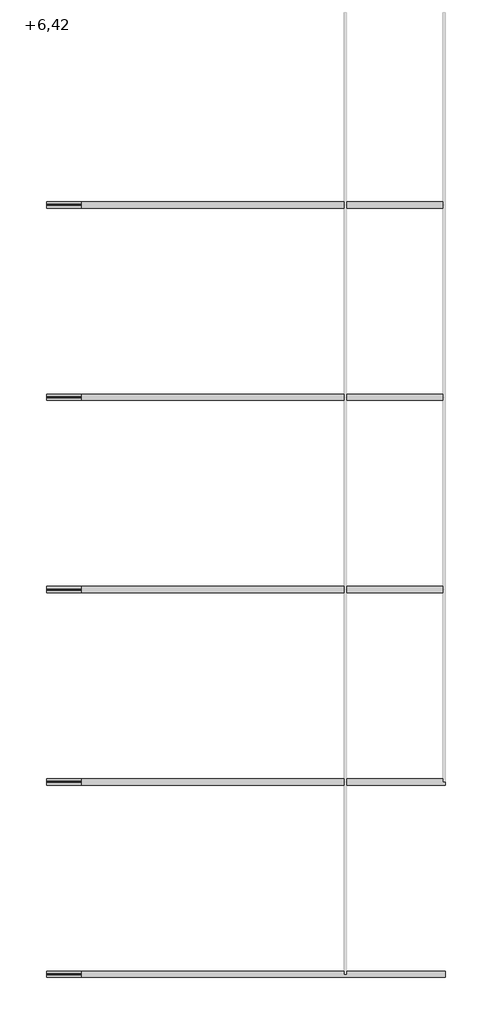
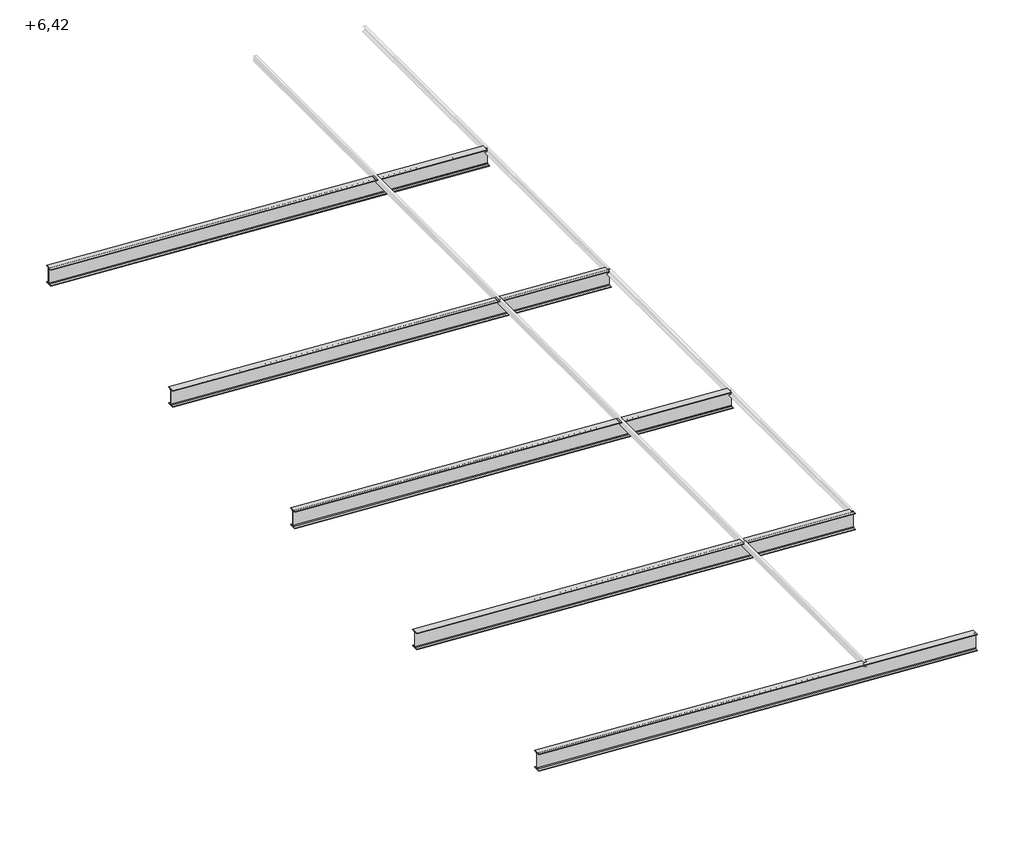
# One storey, part 1 of 2: 5 beams.
"""IFC4 building model written with IfcOpenShell, lengths in millimetres."""

from ifc_helpers import new_model, si_unit, frame, origin, place, context, project, spatial, polyline, ellipse_curve, element, save
from ifc_brep_helpers import plane_surface, revolved_surface, advanced_brep

model = new_model("IFC4")

# Units and contexts
model_context = context("Model", 3, world=origin())
ifc_project = project(units=[si_unit("LENGTHUNIT", "METRE", prefix="MILLI")], contexts=[model_context])

# Site, building, storey
site = spatial("IfcSite", under=ifc_project)
building = spatial("IfcBuilding", under=site)
storey = spatial("IfcBuildingStorey", under=building, Name="+6,42", Elevation=6424.0)

# Beams
placement = place(None, origin())
element("IfcBeam", 1, ObjectType="RPLN IPE - Dwuteowniki równoległościenne : I500PE", at=placement, inside=storey, context=model_context, shape_type="AdvancedBrep", body=[
    advanced_brep(
    [(-8321.7766659, -36886.3816585, 7205.3745626), (-8321.7766659, -36812.4816585, 7205.3745626), (-8321.7740086, -36812.4816585, 7189.3451466), (-8321.7740086, -37012.4816585, 7189.3451466), (-8321.7766659, -37012.4816585, 7205.3745626), (-8321.7766659, -36938.5816585, 7205.3745626), (-8321.7801535, -36917.5816585, 7226.4131711), (-8321.8509032, -36917.5816585, 7653.1963726), (-8321.8543908, -36938.5816585, 7674.2349812), (-8321.8543908, -37012.4816585, 7674.2349812), (-8321.8570481, -37012.4816585, 7690.2643972), (-8321.8570481, -36812.4816585, 7690.2643972), (-8321.8543908, -36812.4816585, 7674.2349812), (-8321.8543908, -36886.3816585, 7674.2349812), (-8321.8509032, -36907.3816585, 7653.1963726), (-8321.7801535, -36907.3816585, 7226.4131711), (4132.9926321, -36812.4816585, 6451.8610201), (4132.9926321, -36886.3816585, 6451.8610201), (4132.9926321, -36907.3816585, 6472.8994176), (4132.9926321, -36907.3816585, 6899.6783387), (4132.9926321, -36886.3816585, 6920.7167363), (4132.9926321, -36812.4816585, 6920.7167363), (4132.9926321, -36812.4816585, 6936.7459915), (4132.9926321, -37012.4816585, 6936.7459915), (4132.9926321, -37012.4816585, 6920.7167363), (4132.9926321, -36938.5816585, 6920.7167363), (4132.9926321, -36917.5816585, 6899.6783387), (4132.9926321, -36917.5816585, 6472.8994176), (4132.9926321, -36938.5816585, 6451.8610201), (4132.9926321, -37012.4816585, 6451.8610201), (4132.9926321, -37012.4816585, 6435.8317648), (4132.9926321, -36812.4816585, 6435.8317648)],
    [
        (0, 1),
        (1, 2),
        (2, 3),
        (3, 4),
        (4, 5),
        (5, 6, ellipse_curve(frame((-8321.7801535, -36938.5816585, 7226.4131711), z_axis=(0.9999999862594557, 0.0, 0.0001657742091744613), x_axis=(-0.00016577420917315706, 0.0, 0.9999999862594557)), 21.0386088, 21.0)),
        (6, 7),
        (7, 8, ellipse_curve(frame((-8321.8509032, -36938.5816585, 7653.1963726), z_axis=(0.9999999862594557, 0.0, 0.0001657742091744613), x_axis=(-0.00016577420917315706, 0.0, 0.9999999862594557)), 21.0386088, 21.0)),
        (8, 9),
        (9, 10),
        (10, 11),
        (11, 12),
        (12, 13),
        (13, 14, ellipse_curve(frame((-8321.8509032, -36886.3816585, 7653.1963726), z_axis=(0.9999999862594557, 0.0, 0.0001657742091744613), x_axis=(-0.00016577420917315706, 0.0, 0.9999999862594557)), 21.0386088, 21.0)),
        (14, 15),
        (15, 0, ellipse_curve(frame((-8321.7801535, -36886.3816585, 7226.4131711), z_axis=(0.9999999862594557, 0.0, 0.0001657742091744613), x_axis=(-0.00016577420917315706, 0.0, 0.9999999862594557)), 21.0386088, 21.0)),
        (16, 17),
        (17, 18, ellipse_curve(frame((4132.9926321, -36886.3816585, 6472.8994176), z_axis=(-1.0, 0.0, 0.0), x_axis=(0.0, 0.0, 0.9999999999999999)), 21.0383975, 21.0)),
        (18, 19),
        (19, 20, ellipse_curve(frame((4132.9926321, -36886.3816585, 6899.6783387), z_axis=(-1.0, 0.0, 0.0), x_axis=(0.0, 0.0, 0.9999999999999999)), 21.0383975, 21.0)),
        (20, 21),
        (21, 22),
        (22, 23),
        (23, 24),
        (24, 25),
        (25, 26, ellipse_curve(frame((4132.9926321, -36938.5816585, 6899.6783387), z_axis=(-1.0, 0.0, 0.0), x_axis=(0.0, 0.0, 0.9999999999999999)), 21.0383975, 21.0)),
        (26, 27),
        (27, 28, ellipse_curve(frame((4132.9926321, -36938.5816585, 6472.8994176), z_axis=(-1.0, 0.0, 0.0), x_axis=(0.0, 0.0, 0.9999999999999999)), 21.0383975, 21.0)),
        (28, 29),
        (29, 30),
        (30, 31),
        (31, 16),
        (16, 1),
        (0, 17),
        (31, 2),
        (30, 3),
        (29, 4),
        (28, 5),
        (27, 6),
        (26, 7),
        (25, 8),
        (24, 9),
        (23, 10),
        (22, 11),
        (21, 12),
        (20, 13),
        (19, 14),
        (18, 15),
    ],
    [
        plane_surface(frame((-8321.6398386, -36912.4816585, 6379.9913475), z_axis=(-0.9999999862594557, 0.0, -0.0001657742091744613), x_axis=(0.0001657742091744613, 0.0, -0.9999999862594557))),
        plane_surface(frame((4132.9926321, -36912.4816585, 6983.0025864), z_axis=(1.0, 0.0, 0.0), x_axis=(0.0, 0.0, 1.0))),
        plane_surface(frame((4227.795571, -36812.4816585, 6446.1254423), z_axis=(0.06038958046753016, 0.0, 0.9981748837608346), x_axis=(-0.9981748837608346, 0.0, 0.06038958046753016))),
        plane_surface(frame((4226.8293377, -36812.4816585, 6430.1546441), z_axis=(0.0, 1.0, 0.0), x_axis=(-0.9981748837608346, 0.0, 0.06038958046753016))),
        plane_surface(frame((4226.8293377, -37012.4816585, 6430.1546441), z_axis=(-0.06038958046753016, 0.0, -0.9981748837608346), x_axis=(-0.9981748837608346, 0.0, 0.06038958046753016))),
        plane_surface(frame((4227.795571, -37012.4816585, 6446.1254423), z_axis=(0.0, -1.0, 0.0), x_axis=(-0.9981748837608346, 0.0, 0.06038958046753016))),
        plane_surface(frame((4227.795571, -36938.5816585, 6446.1254423), z_axis=(0.06038958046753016, 0.0, 0.9981748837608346), x_axis=(-0.9981748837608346, 0.0, 0.06038958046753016))),
        revolved_surface(polyline([(-8323.051822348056, -36959.5816585, 7226.490107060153), (4134.260813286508, -36959.5816585, 6472.822692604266)]), (4229.0637522, -36938.5816585, 6467.0871148), (-0.9981748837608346, 0.0, 0.06038958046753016)),
        plane_surface(frame((4254.7897134, -36917.5816585, 6892.3096153), z_axis=(0.0, -1.0, 0.0), x_axis=(-0.9981748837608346, 0.0, 0.06038958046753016))),
        revolved_surface(polyline([(-8323.122572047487, -36959.5816585, 7653.273308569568), (4134.260813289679, -36959.5816585, 6899.601613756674)]), (4254.7897134, -36938.5816585, 6892.3096153), (-0.9981748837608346, 0.0, 0.06038958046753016)),
        plane_surface(frame((4256.0578946, -37012.4816585, 6913.2712879), z_axis=(-0.06038958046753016, 0.0, -0.9981748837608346), x_axis=(-0.9981748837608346, 0.0, 0.06038958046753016))),
        plane_surface(frame((4257.0241279, -37012.4816585, 6929.242086), z_axis=(0.0, -1.0, 0.0), x_axis=(-0.9981748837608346, 0.0, 0.06038958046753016))),
        plane_surface(frame((4257.0241279, -36812.4816585, 6929.242086), z_axis=(0.06038958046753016, 0.0, 0.9981748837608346), x_axis=(-0.9981748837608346, 0.0, 0.06038958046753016))),
        plane_surface(frame((4256.0578946, -36812.4816585, 6913.2712879), z_axis=(0.0, 1.0, 0.0), x_axis=(-0.9981748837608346, 0.0, 0.06038958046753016))),
        plane_surface(frame((4256.0578946, -36886.3816585, 6913.2712879), z_axis=(-0.06038958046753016, 0.0, -0.9981748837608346), x_axis=(-0.9981748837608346, 0.0, 0.06038958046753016))),
        revolved_surface(polyline([(-8323.122572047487, -36907.3816585, 7653.273308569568), (4134.260813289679, -36907.3816585, 6899.601613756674)]), (4254.7897134, -36886.3816585, 6892.3096153), (-0.9981748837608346, 0.0, 0.06038958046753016)),
        plane_surface(frame((4229.0637522, -36907.3816585, 6467.0871148), z_axis=(0.0, 1.0, 0.0), x_axis=(-0.9981748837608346, 0.0, 0.06038958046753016))),
        revolved_surface(polyline([(-8323.051822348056, -36907.3816585, 7226.490107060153), (4134.260813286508, -36907.3816585, 6472.822692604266)]), (4229.0637522, -36886.3816585, 6467.0871148), (-0.9981748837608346, 0.0, 0.06038958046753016)),
    ],
    [
        (0, [[1, 2, 3, 4, 5, 6, 7, 8, 9, 10, 11, 12, 13, 14, 15, 16]]),
        (1, [[17, 18, 19, 20, 21, 22, 23, 24, 25, 26, 27, 28, 29, 30, 31, 32]]),
        (2, [[33, -1, 34, -17]]),
        (3, [[35, -2, -33, -32]]),
        (4, [[36, -3, -35, -31]]),
        (5, [[37, -4, -36, -30]]),
        (6, [[38, -5, -37, -29]]),
        (7, [[39, -6, -38, -28]]),
        (8, [[40, -7, -39, -27]]),
        (9, [[41, -8, -40, -26]]),
        (10, [[42, -9, -41, -25]]),
        (11, [[43, -10, -42, -24]]),
        (12, [[44, -11, -43, -23]]),
        (13, [[45, -12, -44, -22]]),
        (14, [[46, -13, -45, -21]]),
        (15, [[47, -14, -46, -20]]),
        (16, [[48, -15, -47, -19]]),
        (17, [[-34, -16, -48, -18]]),
    ],
),
])
element("IfcBeam", 2, ObjectType="RPLN IPE - Dwuteowniki równoległościenne : I500PE", at=placement, inside=storey, context=model_context, shape_type="AdvancedBrep", body=[
    advanced_brep(
    [(-8321.7766659, -30886.3816585, 7205.3745626), (-8321.7766659, -30812.4816585, 7205.3745626), (-8321.7740086, -30812.4816585, 7189.3451466), (-8321.7740086, -31012.4816585, 7189.3451466), (-8321.7766659, -31012.4816585, 7205.3745626), (-8321.7766659, -30938.5816585, 7205.3745626), (-8321.7801535, -30917.5816585, 7226.4131711), (-8321.8509032, -30917.5816585, 7653.1963726), (-8321.8543908, -30938.5816585, 7674.2349812), (-8321.8543908, -31012.4816585, 7674.2349812), (-8321.8570481, -31012.4816585, 7690.2643972), (-8321.8570481, -30812.4816585, 7690.2643972), (-8321.8543908, -30812.4816585, 7674.2349812), (-8321.8543908, -30886.3816585, 7674.2349812), (-8321.8509032, -30907.3816585, 7653.1963726), (-8321.7801535, -30907.3816585, 7226.4131711), (4132.9926321, -30812.4816585, 6451.8610201), (4132.9926321, -30886.3816585, 6451.8610201), (4132.9926321, -30907.3816585, 6472.8994176), (4132.9926321, -30907.3816585, 6899.6783387), (4132.9926321, -30886.3816585, 6920.7167363), (4132.9926321, -30812.4816585, 6920.7167363), (4132.9926321, -30812.4816585, 6936.7459915), (4132.9926321, -31012.4816585, 6936.7459915), (4132.9926321, -31012.4816585, 6920.7167363), (4132.9926321, -30938.5816585, 6920.7167363), (4132.9926321, -30917.5816585, 6899.6783387), (4132.9926321, -30917.5816585, 6472.8994176), (4132.9926321, -30938.5816585, 6451.8610201), (4132.9926321, -31012.4816585, 6451.8610201), (4132.9926321, -31012.4816585, 6435.8317648), (4132.9926321, -30812.4816585, 6435.8317648)],
    [
        (0, 1),
        (1, 2),
        (2, 3),
        (3, 4),
        (4, 5),
        (5, 6, ellipse_curve(frame((-8321.7801535, -30938.5816585, 7226.4131711), z_axis=(0.9999999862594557, 0.0, 0.0001657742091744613), x_axis=(-0.00016577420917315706, 0.0, 0.9999999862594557)), 21.0386088, 21.0)),
        (6, 7),
        (7, 8, ellipse_curve(frame((-8321.8509032, -30938.5816585, 7653.1963726), z_axis=(0.9999999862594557, 0.0, 0.0001657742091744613), x_axis=(-0.00016577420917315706, 0.0, 0.9999999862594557)), 21.0386088, 21.0)),
        (8, 9),
        (9, 10),
        (10, 11),
        (11, 12),
        (12, 13),
        (13, 14, ellipse_curve(frame((-8321.8509032, -30886.3816585, 7653.1963726), z_axis=(0.9999999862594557, 0.0, 0.0001657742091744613), x_axis=(-0.00016577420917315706, 0.0, 0.9999999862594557)), 21.0386088, 21.0)),
        (14, 15),
        (15, 0, ellipse_curve(frame((-8321.7801535, -30886.3816585, 7226.4131711), z_axis=(0.9999999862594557, 0.0, 0.0001657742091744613), x_axis=(-0.00016577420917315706, 0.0, 0.9999999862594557)), 21.0386088, 21.0)),
        (16, 17),
        (17, 18, ellipse_curve(frame((4132.9926321, -30886.3816585, 6472.8994176), z_axis=(-1.0, 0.0, 0.0), x_axis=(0.0, 0.0, 0.9999999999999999)), 21.0383975, 21.0)),
        (18, 19),
        (19, 20, ellipse_curve(frame((4132.9926321, -30886.3816585, 6899.6783387), z_axis=(-1.0, 0.0, 0.0), x_axis=(0.0, 0.0, 0.9999999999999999)), 21.0383975, 21.0)),
        (20, 21),
        (21, 22),
        (22, 23),
        (23, 24),
        (24, 25),
        (25, 26, ellipse_curve(frame((4132.9926321, -30938.5816585, 6899.6783387), z_axis=(-1.0, 0.0, 0.0), x_axis=(0.0, 0.0, 0.9999999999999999)), 21.0383975, 21.0)),
        (26, 27),
        (27, 28, ellipse_curve(frame((4132.9926321, -30938.5816585, 6472.8994176), z_axis=(-1.0, 0.0, 0.0), x_axis=(0.0, 0.0, 0.9999999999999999)), 21.0383975, 21.0)),
        (28, 29),
        (29, 30),
        (30, 31),
        (31, 16),
        (16, 1),
        (0, 17),
        (31, 2),
        (30, 3),
        (29, 4),
        (28, 5),
        (27, 6),
        (26, 7),
        (25, 8),
        (24, 9),
        (23, 10),
        (22, 11),
        (21, 12),
        (20, 13),
        (19, 14),
        (18, 15),
    ],
    [
        plane_surface(frame((-8321.6398386, -36912.4816585, 6379.9913475), z_axis=(-0.9999999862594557, 0.0, -0.0001657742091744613), x_axis=(0.0001657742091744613, 0.0, -0.9999999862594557))),
        plane_surface(frame((4132.9926321, -36912.4816585, 6983.0025864), z_axis=(1.0, 0.0, 0.0), x_axis=(0.0, 0.0, 1.0))),
        plane_surface(frame((4227.795571, -30812.4816585, 6446.1254423), z_axis=(0.06038958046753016, 0.0, 0.9981748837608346), x_axis=(-0.9981748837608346, 0.0, 0.06038958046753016))),
        plane_surface(frame((4226.8293377, -30812.4816585, 6430.1546441), z_axis=(0.0, 1.0, 0.0), x_axis=(-0.9981748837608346, 0.0, 0.06038958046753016))),
        plane_surface(frame((4226.8293377, -31012.4816585, 6430.1546441), z_axis=(-0.06038958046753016, 0.0, -0.9981748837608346), x_axis=(-0.9981748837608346, 0.0, 0.06038958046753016))),
        plane_surface(frame((4227.795571, -31012.4816585, 6446.1254423), z_axis=(0.0, -1.0, 0.0), x_axis=(-0.9981748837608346, 0.0, 0.06038958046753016))),
        plane_surface(frame((4227.795571, -30938.5816585, 6446.1254423), z_axis=(0.06038958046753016, 0.0, 0.9981748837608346), x_axis=(-0.9981748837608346, 0.0, 0.06038958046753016))),
        revolved_surface(polyline([(-8323.051822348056, -30959.5816585, 7226.490107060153), (4134.260813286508, -30959.5816585, 6472.822692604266)]), (4229.0637522, -30938.5816585, 6467.0871148), (-0.9981748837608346, 0.0, 0.06038958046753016)),
        plane_surface(frame((4254.7897134, -30917.5816585, 6892.3096153), z_axis=(0.0, -1.0, 0.0), x_axis=(-0.9981748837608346, 0.0, 0.06038958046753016))),
        revolved_surface(polyline([(-8323.122572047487, -30959.5816585, 7653.273308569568), (4134.260813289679, -30959.5816585, 6899.601613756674)]), (4254.7897134, -30938.5816585, 6892.3096153), (-0.9981748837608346, 0.0, 0.06038958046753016)),
        plane_surface(frame((4256.0578946, -31012.4816585, 6913.2712879), z_axis=(-0.06038958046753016, 0.0, -0.9981748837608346), x_axis=(-0.9981748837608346, 0.0, 0.06038958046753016))),
        plane_surface(frame((4257.0241279, -31012.4816585, 6929.242086), z_axis=(0.0, -1.0, 0.0), x_axis=(-0.9981748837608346, 0.0, 0.06038958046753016))),
        plane_surface(frame((4257.0241279, -30812.4816585, 6929.242086), z_axis=(0.06038958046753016, 0.0, 0.9981748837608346), x_axis=(-0.9981748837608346, 0.0, 0.06038958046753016))),
        plane_surface(frame((4256.0578946, -30812.4816585, 6913.2712879), z_axis=(0.0, 1.0, 0.0), x_axis=(-0.9981748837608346, 0.0, 0.06038958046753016))),
        plane_surface(frame((4256.0578946, -30886.3816585, 6913.2712879), z_axis=(-0.06038958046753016, 0.0, -0.9981748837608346), x_axis=(-0.9981748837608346, 0.0, 0.06038958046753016))),
        revolved_surface(polyline([(-8323.122572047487, -30907.3816585, 7653.273308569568), (4134.260813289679, -30907.3816585, 6899.601613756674)]), (4254.7897134, -30886.3816585, 6892.3096153), (-0.9981748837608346, 0.0, 0.06038958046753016)),
        plane_surface(frame((4229.0637522, -30907.3816585, 6467.0871148), z_axis=(0.0, 1.0, 0.0), x_axis=(-0.9981748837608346, 0.0, 0.06038958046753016))),
        revolved_surface(polyline([(-8323.051822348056, -30907.3816585, 7226.490107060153), (4134.260813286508, -30907.3816585, 6472.822692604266)]), (4229.0637522, -30886.3816585, 6467.0871148), (-0.9981748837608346, 0.0, 0.06038958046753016)),
    ],
    [
        (0, [[1, 2, 3, 4, 5, 6, 7, 8, 9, 10, 11, 12, 13, 14, 15, 16]]),
        (1, [[17, 18, 19, 20, 21, 22, 23, 24, 25, 26, 27, 28, 29, 30, 31, 32]]),
        (2, [[33, -1, 34, -17]]),
        (3, [[35, -2, -33, -32]]),
        (4, [[36, -3, -35, -31]]),
        (5, [[37, -4, -36, -30]]),
        (6, [[38, -5, -37, -29]]),
        (7, [[39, -6, -38, -28]]),
        (8, [[40, -7, -39, -27]]),
        (9, [[41, -8, -40, -26]]),
        (10, [[42, -9, -41, -25]]),
        (11, [[43, -10, -42, -24]]),
        (12, [[44, -11, -43, -23]]),
        (13, [[45, -12, -44, -22]]),
        (14, [[46, -13, -45, -21]]),
        (15, [[47, -14, -46, -20]]),
        (16, [[48, -15, -47, -19]]),
        (17, [[-34, -16, -48, -18]]),
    ],
),
])
element("IfcBeam", 3, ObjectType="RPLN IPE - Dwuteowniki równoległościenne : I500PE", at=placement, inside=storey, context=model_context, shape_type="AdvancedBrep", body=[
    advanced_brep(
    [(-8321.7766659, -24886.3816585, 7205.3745626), (-8321.7766659, -24812.4816585, 7205.3745626), (-8321.7740086, -24812.4816585, 7189.3451466), (-8321.7740086, -25012.4816585, 7189.3451466), (-8321.7766659, -25012.4816585, 7205.3745626), (-8321.7766659, -24938.5816585, 7205.3745626), (-8321.7801535, -24917.5816585, 7226.4131711), (-8321.8509032, -24917.5816585, 7653.1963726), (-8321.8543908, -24938.5816585, 7674.2349812), (-8321.8543908, -25012.4816585, 7674.2349812), (-8321.8570481, -25012.4816585, 7690.2643972), (-8321.8570481, -24812.4816585, 7690.2643972), (-8321.8543908, -24812.4816585, 7674.2349812), (-8321.8543908, -24886.3816585, 7674.2349812), (-8321.8509032, -24907.3816585, 7653.1963726), (-8321.7801535, -24907.3816585, 7226.4131711), (4132.9926321, -24812.4816585, 6451.8610201), (4132.9926321, -24886.3816585, 6451.8610201), (4132.9926321, -24907.3816585, 6472.8994176), (4132.9926321, -24907.3816585, 6899.6783387), (4132.9926321, -24886.3816585, 6920.7167363), (4132.9926321, -24812.4816585, 6920.7167363), (4132.9926321, -24812.4816585, 6936.7459915), (4132.9926321, -25012.4816585, 6936.7459915), (4132.9926321, -25012.4816585, 6920.7167363), (4132.9926321, -24938.5816585, 6920.7167363), (4132.9926321, -24917.5816585, 6899.6783387), (4132.9926321, -24917.5816585, 6472.8994176), (4132.9926321, -24938.5816585, 6451.8610201), (4132.9926321, -25012.4816585, 6451.8610201), (4132.9926321, -25012.4816585, 6435.8317648), (4132.9926321, -24812.4816585, 6435.8317648)],
    [
        (0, 1),
        (1, 2),
        (2, 3),
        (3, 4),
        (4, 5),
        (5, 6, ellipse_curve(frame((-8321.7801535, -24938.5816585, 7226.4131711), z_axis=(0.9999999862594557, 0.0, 0.0001657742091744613), x_axis=(-0.00016577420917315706, 0.0, 0.9999999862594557)), 21.0386088, 21.0)),
        (6, 7),
        (7, 8, ellipse_curve(frame((-8321.8509032, -24938.5816585, 7653.1963726), z_axis=(0.9999999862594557, 0.0, 0.0001657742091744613), x_axis=(-0.00016577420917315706, 0.0, 0.9999999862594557)), 21.0386088, 21.0)),
        (8, 9),
        (9, 10),
        (10, 11),
        (11, 12),
        (12, 13),
        (13, 14, ellipse_curve(frame((-8321.8509032, -24886.3816585, 7653.1963726), z_axis=(0.9999999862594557, 0.0, 0.0001657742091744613), x_axis=(-0.00016577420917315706, 0.0, 0.9999999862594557)), 21.0386088, 21.0)),
        (14, 15),
        (15, 0, ellipse_curve(frame((-8321.7801535, -24886.3816585, 7226.4131711), z_axis=(0.9999999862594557, 0.0, 0.0001657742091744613), x_axis=(-0.00016577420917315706, 0.0, 0.9999999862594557)), 21.0386088, 21.0)),
        (16, 17),
        (17, 18, ellipse_curve(frame((4132.9926321, -24886.3816585, 6472.8994176), z_axis=(-1.0, 0.0, 0.0), x_axis=(0.0, 0.0, 0.9999999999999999)), 21.0383975, 21.0)),
        (18, 19),
        (19, 20, ellipse_curve(frame((4132.9926321, -24886.3816585, 6899.6783387), z_axis=(-1.0, 0.0, 0.0), x_axis=(0.0, 0.0, 0.9999999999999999)), 21.0383975, 21.0)),
        (20, 21),
        (21, 22),
        (22, 23),
        (23, 24),
        (24, 25),
        (25, 26, ellipse_curve(frame((4132.9926321, -24938.5816585, 6899.6783387), z_axis=(-1.0, 0.0, 0.0), x_axis=(0.0, 0.0, 0.9999999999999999)), 21.0383975, 21.0)),
        (26, 27),
        (27, 28, ellipse_curve(frame((4132.9926321, -24938.5816585, 6472.8994176), z_axis=(-1.0, 0.0, 0.0), x_axis=(0.0, 0.0, 0.9999999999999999)), 21.0383975, 21.0)),
        (28, 29),
        (29, 30),
        (30, 31),
        (31, 16),
        (16, 1),
        (0, 17),
        (31, 2),
        (30, 3),
        (29, 4),
        (28, 5),
        (27, 6),
        (26, 7),
        (25, 8),
        (24, 9),
        (23, 10),
        (22, 11),
        (21, 12),
        (20, 13),
        (19, 14),
        (18, 15),
    ],
    [
        plane_surface(frame((-8321.6398386, -36912.4816585, 6379.9913475), z_axis=(-0.9999999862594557, 0.0, -0.0001657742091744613), x_axis=(0.0001657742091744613, 0.0, -0.9999999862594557))),
        plane_surface(frame((4132.9926321, -36912.4816585, 6983.0025864), z_axis=(1.0, 0.0, 0.0), x_axis=(0.0, 0.0, 1.0))),
        plane_surface(frame((4227.795571, -24812.4816585, 6446.1254423), z_axis=(0.06038958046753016, 0.0, 0.9981748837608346), x_axis=(-0.9981748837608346, 0.0, 0.06038958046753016))),
        plane_surface(frame((4226.8293377, -24812.4816585, 6430.1546441), z_axis=(0.0, 1.0, 0.0), x_axis=(-0.9981748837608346, 0.0, 0.06038958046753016))),
        plane_surface(frame((4226.8293377, -25012.4816585, 6430.1546441), z_axis=(-0.06038958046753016, 0.0, -0.9981748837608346), x_axis=(-0.9981748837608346, 0.0, 0.06038958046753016))),
        plane_surface(frame((4227.795571, -25012.4816585, 6446.1254423), z_axis=(0.0, -1.0, 0.0), x_axis=(-0.9981748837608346, 0.0, 0.06038958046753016))),
        plane_surface(frame((4227.795571, -24938.5816585, 6446.1254423), z_axis=(0.06038958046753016, 0.0, 0.9981748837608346), x_axis=(-0.9981748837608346, 0.0, 0.06038958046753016))),
        revolved_surface(polyline([(-8323.051822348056, -24959.5816585, 7226.490107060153), (4134.260813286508, -24959.5816585, 6472.822692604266)]), (4229.0637522, -24938.5816585, 6467.0871148), (-0.9981748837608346, 0.0, 0.06038958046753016)),
        plane_surface(frame((4254.7897134, -24917.5816585, 6892.3096153), z_axis=(0.0, -1.0, 0.0), x_axis=(-0.9981748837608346, 0.0, 0.06038958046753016))),
        revolved_surface(polyline([(-8323.122572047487, -24959.5816585, 7653.273308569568), (4134.260813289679, -24959.5816585, 6899.601613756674)]), (4254.7897134, -24938.5816585, 6892.3096153), (-0.9981748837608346, 0.0, 0.06038958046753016)),
        plane_surface(frame((4256.0578946, -25012.4816585, 6913.2712879), z_axis=(-0.06038958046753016, 0.0, -0.9981748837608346), x_axis=(-0.9981748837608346, 0.0, 0.06038958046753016))),
        plane_surface(frame((4257.0241279, -25012.4816585, 6929.242086), z_axis=(0.0, -1.0, 0.0), x_axis=(-0.9981748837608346, 0.0, 0.06038958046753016))),
        plane_surface(frame((4257.0241279, -24812.4816585, 6929.242086), z_axis=(0.06038958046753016, 0.0, 0.9981748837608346), x_axis=(-0.9981748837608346, 0.0, 0.06038958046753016))),
        plane_surface(frame((4256.0578946, -24812.4816585, 6913.2712879), z_axis=(0.0, 1.0, 0.0), x_axis=(-0.9981748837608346, 0.0, 0.06038958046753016))),
        plane_surface(frame((4256.0578946, -24886.3816585, 6913.2712879), z_axis=(-0.06038958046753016, 0.0, -0.9981748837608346), x_axis=(-0.9981748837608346, 0.0, 0.06038958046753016))),
        revolved_surface(polyline([(-8323.122572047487, -24907.3816585, 7653.273308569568), (4134.260813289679, -24907.3816585, 6899.601613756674)]), (4254.7897134, -24886.3816585, 6892.3096153), (-0.9981748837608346, 0.0, 0.06038958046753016)),
        plane_surface(frame((4229.0637522, -24907.3816585, 6467.0871148), z_axis=(0.0, 1.0, 0.0), x_axis=(-0.9981748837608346, 0.0, 0.06038958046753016))),
        revolved_surface(polyline([(-8323.051822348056, -24907.3816585, 7226.490107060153), (4134.260813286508, -24907.3816585, 6472.822692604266)]), (4229.0637522, -24886.3816585, 6467.0871148), (-0.9981748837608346, 0.0, 0.06038958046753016)),
    ],
    [
        (0, [[1, 2, 3, 4, 5, 6, 7, 8, 9, 10, 11, 12, 13, 14, 15, 16]]),
        (1, [[17, 18, 19, 20, 21, 22, 23, 24, 25, 26, 27, 28, 29, 30, 31, 32]]),
        (2, [[33, -1, 34, -17]]),
        (3, [[35, -2, -33, -32]]),
        (4, [[36, -3, -35, -31]]),
        (5, [[37, -4, -36, -30]]),
        (6, [[38, -5, -37, -29]]),
        (7, [[39, -6, -38, -28]]),
        (8, [[40, -7, -39, -27]]),
        (9, [[41, -8, -40, -26]]),
        (10, [[42, -9, -41, -25]]),
        (11, [[43, -10, -42, -24]]),
        (12, [[44, -11, -43, -23]]),
        (13, [[45, -12, -44, -22]]),
        (14, [[46, -13, -45, -21]]),
        (15, [[47, -14, -46, -20]]),
        (16, [[48, -15, -47, -19]]),
        (17, [[-34, -16, -48, -18]]),
    ],
),
])
element("IfcBeam", 4, ObjectType="RPLN IPE - Dwuteowniki równoległościenne : I500PE", at=placement, inside=storey, context=model_context, shape_type="AdvancedBrep", body=[
    advanced_brep(
    [(-8321.7766659, -18886.3816585, 7205.3745626), (-8321.7766659, -18812.4816585, 7205.3745626), (-8321.7740086, -18812.4816585, 7189.3451466), (-8321.7740086, -19012.4816585, 7189.3451466), (-8321.7766659, -19012.4816585, 7205.3745626), (-8321.7766659, -18938.5816585, 7205.3745626), (-8321.7801535, -18917.5816585, 7226.4131711), (-8321.8509032, -18917.5816585, 7653.1963726), (-8321.8543908, -18938.5816585, 7674.2349812), (-8321.8543908, -19012.4816585, 7674.2349812), (-8321.8570481, -19012.4816585, 7690.2643972), (-8321.8570481, -18812.4816585, 7690.2643972), (-8321.8543908, -18812.4816585, 7674.2349812), (-8321.8543908, -18886.3816585, 7674.2349812), (-8321.8509032, -18907.3816585, 7653.1963726), (-8321.7801535, -18907.3816585, 7226.4131711), (4132.9926321, -18812.4816585, 6451.8610201), (4132.9926321, -18886.3816585, 6451.8610201), (4132.9926321, -18907.3816585, 6472.8994176), (4132.9926321, -18907.3816585, 6899.6783387), (4132.9926321, -18886.3816585, 6920.7167363), (4132.9926321, -18812.4816585, 6920.7167363), (4132.9926321, -18812.4816585, 6936.7459915), (4132.9926321, -19012.4816585, 6936.7459915), (4132.9926321, -19012.4816585, 6920.7167363), (4132.9926321, -18938.5816585, 6920.7167363), (4132.9926321, -18917.5816585, 6899.6783387), (4132.9926321, -18917.5816585, 6472.8994176), (4132.9926321, -18938.5816585, 6451.8610201), (4132.9926321, -19012.4816585, 6451.8610201), (4132.9926321, -19012.4816585, 6435.8317648), (4132.9926321, -18812.4816585, 6435.8317648)],
    [
        (0, 1),
        (1, 2),
        (2, 3),
        (3, 4),
        (4, 5),
        (5, 6, ellipse_curve(frame((-8321.7801535, -18938.5816585, 7226.4131711), z_axis=(0.9999999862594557, 0.0, 0.0001657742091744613), x_axis=(-0.00016577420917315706, 0.0, 0.9999999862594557)), 21.0386088, 21.0)),
        (6, 7),
        (7, 8, ellipse_curve(frame((-8321.8509032, -18938.5816585, 7653.1963726), z_axis=(0.9999999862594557, 0.0, 0.0001657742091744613), x_axis=(-0.00016577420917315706, 0.0, 0.9999999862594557)), 21.0386088, 21.0)),
        (8, 9),
        (9, 10),
        (10, 11),
        (11, 12),
        (12, 13),
        (13, 14, ellipse_curve(frame((-8321.8509032, -18886.3816585, 7653.1963726), z_axis=(0.9999999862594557, 0.0, 0.0001657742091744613), x_axis=(-0.00016577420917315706, 0.0, 0.9999999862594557)), 21.0386088, 21.0)),
        (14, 15),
        (15, 0, ellipse_curve(frame((-8321.7801535, -18886.3816585, 7226.4131711), z_axis=(0.9999999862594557, 0.0, 0.0001657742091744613), x_axis=(-0.00016577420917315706, 0.0, 0.9999999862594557)), 21.0386088, 21.0)),
        (16, 17),
        (17, 18, ellipse_curve(frame((4132.9926321, -18886.3816585, 6472.8994176), z_axis=(-1.0, 0.0, 0.0), x_axis=(0.0, 0.0, 0.9999999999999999)), 21.0383975, 21.0)),
        (18, 19),
        (19, 20, ellipse_curve(frame((4132.9926321, -18886.3816585, 6899.6783387), z_axis=(-1.0, 0.0, 0.0), x_axis=(0.0, 0.0, 0.9999999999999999)), 21.0383975, 21.0)),
        (20, 21),
        (21, 22),
        (22, 23),
        (23, 24),
        (24, 25),
        (25, 26, ellipse_curve(frame((4132.9926321, -18938.5816585, 6899.6783387), z_axis=(-1.0, 0.0, 0.0), x_axis=(0.0, 0.0, 0.9999999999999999)), 21.0383975, 21.0)),
        (26, 27),
        (27, 28, ellipse_curve(frame((4132.9926321, -18938.5816585, 6472.8994176), z_axis=(-1.0, 0.0, 0.0), x_axis=(0.0, 0.0, 0.9999999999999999)), 21.0383975, 21.0)),
        (28, 29),
        (29, 30),
        (30, 31),
        (31, 16),
        (16, 1),
        (0, 17),
        (31, 2),
        (30, 3),
        (29, 4),
        (28, 5),
        (27, 6),
        (26, 7),
        (25, 8),
        (24, 9),
        (23, 10),
        (22, 11),
        (21, 12),
        (20, 13),
        (19, 14),
        (18, 15),
    ],
    [
        plane_surface(frame((-8321.6398386, -36912.4816585, 6379.9913475), z_axis=(-0.9999999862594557, 0.0, -0.0001657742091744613), x_axis=(0.0001657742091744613, 0.0, -0.9999999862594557))),
        plane_surface(frame((4132.9926321, -36912.4816585, 6983.0025864), z_axis=(1.0, 0.0, 0.0), x_axis=(0.0, 0.0, 1.0))),
        plane_surface(frame((4227.795571, -18812.4816585, 6446.1254423), z_axis=(0.06038958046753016, 0.0, 0.9981748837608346), x_axis=(-0.9981748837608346, 0.0, 0.06038958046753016))),
        plane_surface(frame((4226.8293377, -18812.4816585, 6430.1546441), z_axis=(0.0, 1.0, 0.0), x_axis=(-0.9981748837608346, 0.0, 0.06038958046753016))),
        plane_surface(frame((4226.8293377, -19012.4816585, 6430.1546441), z_axis=(-0.06038958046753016, 0.0, -0.9981748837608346), x_axis=(-0.9981748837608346, 0.0, 0.06038958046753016))),
        plane_surface(frame((4227.795571, -19012.4816585, 6446.1254423), z_axis=(0.0, -1.0, 0.0), x_axis=(-0.9981748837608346, 0.0, 0.06038958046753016))),
        plane_surface(frame((4227.795571, -18938.5816585, 6446.1254423), z_axis=(0.06038958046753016, 0.0, 0.9981748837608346), x_axis=(-0.9981748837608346, 0.0, 0.06038958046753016))),
        revolved_surface(polyline([(-8323.051822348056, -18959.5816585, 7226.490107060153), (4134.260813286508, -18959.5816585, 6472.822692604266)]), (4229.0637522, -18938.5816585, 6467.0871148), (-0.9981748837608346, 0.0, 0.06038958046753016)),
        plane_surface(frame((4254.7897134, -18917.5816585, 6892.3096153), z_axis=(0.0, -1.0, 0.0), x_axis=(-0.9981748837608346, 0.0, 0.06038958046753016))),
        revolved_surface(polyline([(-8323.122572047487, -18959.5816585, 7653.273308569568), (4134.260813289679, -18959.5816585, 6899.601613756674)]), (4254.7897134, -18938.5816585, 6892.3096153), (-0.9981748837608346, 0.0, 0.06038958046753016)),
        plane_surface(frame((4256.0578946, -19012.4816585, 6913.2712879), z_axis=(-0.06038958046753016, 0.0, -0.9981748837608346), x_axis=(-0.9981748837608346, 0.0, 0.06038958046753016))),
        plane_surface(frame((4257.0241279, -19012.4816585, 6929.242086), z_axis=(0.0, -1.0, 0.0), x_axis=(-0.9981748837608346, 0.0, 0.06038958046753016))),
        plane_surface(frame((4257.0241279, -18812.4816585, 6929.242086), z_axis=(0.06038958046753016, 0.0, 0.9981748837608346), x_axis=(-0.9981748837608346, 0.0, 0.06038958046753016))),
        plane_surface(frame((4256.0578946, -18812.4816585, 6913.2712879), z_axis=(0.0, 1.0, 0.0), x_axis=(-0.9981748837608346, 0.0, 0.06038958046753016))),
        plane_surface(frame((4256.0578946, -18886.3816585, 6913.2712879), z_axis=(-0.06038958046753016, 0.0, -0.9981748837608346), x_axis=(-0.9981748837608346, 0.0, 0.06038958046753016))),
        revolved_surface(polyline([(-8323.122572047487, -18907.3816585, 7653.273308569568), (4134.260813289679, -18907.3816585, 6899.601613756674)]), (4254.7897134, -18886.3816585, 6892.3096153), (-0.9981748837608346, 0.0, 0.06038958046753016)),
        plane_surface(frame((4229.0637522, -18907.3816585, 6467.0871148), z_axis=(0.0, 1.0, 0.0), x_axis=(-0.9981748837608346, 0.0, 0.06038958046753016))),
        revolved_surface(polyline([(-8323.051822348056, -18907.3816585, 7226.490107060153), (4134.260813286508, -18907.3816585, 6472.822692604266)]), (4229.0637522, -18886.3816585, 6467.0871148), (-0.9981748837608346, 0.0, 0.06038958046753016)),
    ],
    [
        (0, [[1, 2, 3, 4, 5, 6, 7, 8, 9, 10, 11, 12, 13, 14, 15, 16]]),
        (1, [[17, 18, 19, 20, 21, 22, 23, 24, 25, 26, 27, 28, 29, 30, 31, 32]]),
        (2, [[33, -1, 34, -17]]),
        (3, [[35, -2, -33, -32]]),
        (4, [[36, -3, -35, -31]]),
        (5, [[37, -4, -36, -30]]),
        (6, [[38, -5, -37, -29]]),
        (7, [[39, -6, -38, -28]]),
        (8, [[40, -7, -39, -27]]),
        (9, [[41, -8, -40, -26]]),
        (10, [[42, -9, -41, -25]]),
        (11, [[43, -10, -42, -24]]),
        (12, [[44, -11, -43, -23]]),
        (13, [[45, -12, -44, -22]]),
        (14, [[46, -13, -45, -21]]),
        (15, [[47, -14, -46, -20]]),
        (16, [[48, -15, -47, -19]]),
        (17, [[-34, -16, -48, -18]]),
    ],
),
])
element("IfcBeam", 5, ObjectType="RPLN IPE - Dwuteowniki równoległościenne : I500PE", at=placement, inside=storey, context=model_context, shape_type="AdvancedBrep", body=[
    advanced_brep(
    [(-8321.7766659, -12886.3816585, 7205.3745626), (-8321.7766659, -12812.4816585, 7205.3745626), (-8321.7740086, -12812.4816585, 7189.3451466), (-8321.7740086, -13012.4816585, 7189.3451466), (-8321.7766659, -13012.4816585, 7205.3745626), (-8321.7766659, -12938.5816585, 7205.3745626), (-8321.7801535, -12917.5816585, 7226.4131711), (-8321.8509032, -12917.5816585, 7653.1963726), (-8321.8543908, -12938.5816585, 7674.2349812), (-8321.8543908, -13012.4816585, 7674.2349812), (-8321.8570481, -13012.4816585, 7690.2643972), (-8321.8570481, -12812.4816585, 7690.2643972), (-8321.8543908, -12812.4816585, 7674.2349812), (-8321.8543908, -12886.3816585, 7674.2349812), (-8321.8509032, -12907.3816585, 7653.1963726), (-8321.7801535, -12907.3816585, 7226.4131711), (4132.9926321, -12812.4816585, 6451.8610201), (4132.9926321, -12886.3816585, 6451.8610201), (4132.9926321, -12907.3816585, 6472.8994176), (4132.9926321, -12907.3816585, 6899.6783387), (4132.9926321, -12886.3816585, 6920.7167363), (4132.9926321, -12812.4816585, 6920.7167363), (4132.9926321, -12812.4816585, 6936.7459915), (4132.9926321, -13012.4816585, 6936.7459915), (4132.9926321, -13012.4816585, 6920.7167363), (4132.9926321, -12938.5816585, 6920.7167363), (4132.9926321, -12917.5816585, 6899.6783387), (4132.9926321, -12917.5816585, 6472.8994176), (4132.9926321, -12938.5816585, 6451.8610201), (4132.9926321, -13012.4816585, 6451.8610201), (4132.9926321, -13012.4816585, 6435.8317648), (4132.9926321, -12812.4816585, 6435.8317648)],
    [
        (0, 1),
        (1, 2),
        (2, 3),
        (3, 4),
        (4, 5),
        (5, 6, ellipse_curve(frame((-8321.7801535, -12938.5816585, 7226.4131711), z_axis=(0.9999999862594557, 0.0, 0.0001657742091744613), x_axis=(-0.00016577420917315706, 0.0, 0.9999999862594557)), 21.0386088, 21.0)),
        (6, 7),
        (7, 8, ellipse_curve(frame((-8321.8509032, -12938.5816585, 7653.1963726), z_axis=(0.9999999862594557, 0.0, 0.0001657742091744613), x_axis=(-0.00016577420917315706, 0.0, 0.9999999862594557)), 21.0386088, 21.0)),
        (8, 9),
        (9, 10),
        (10, 11),
        (11, 12),
        (12, 13),
        (13, 14, ellipse_curve(frame((-8321.8509032, -12886.3816585, 7653.1963726), z_axis=(0.9999999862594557, 0.0, 0.0001657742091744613), x_axis=(-0.00016577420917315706, 0.0, 0.9999999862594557)), 21.0386088, 21.0)),
        (14, 15),
        (15, 0, ellipse_curve(frame((-8321.7801535, -12886.3816585, 7226.4131711), z_axis=(0.9999999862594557, 0.0, 0.0001657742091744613), x_axis=(-0.00016577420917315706, 0.0, 0.9999999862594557)), 21.0386088, 21.0)),
        (16, 17),
        (17, 18, ellipse_curve(frame((4132.9926321, -12886.3816585, 6472.8994176), z_axis=(-1.0, 0.0, 0.0), x_axis=(0.0, 0.0, 0.9999999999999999)), 21.0383975, 21.0)),
        (18, 19),
        (19, 20, ellipse_curve(frame((4132.9926321, -12886.3816585, 6899.6783387), z_axis=(-1.0, 0.0, 0.0), x_axis=(0.0, 0.0, 0.9999999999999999)), 21.0383975, 21.0)),
        (20, 21),
        (21, 22),
        (22, 23),
        (23, 24),
        (24, 25),
        (25, 26, ellipse_curve(frame((4132.9926321, -12938.5816585, 6899.6783387), z_axis=(-1.0, 0.0, 0.0), x_axis=(0.0, 0.0, 0.9999999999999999)), 21.0383975, 21.0)),
        (26, 27),
        (27, 28, ellipse_curve(frame((4132.9926321, -12938.5816585, 6472.8994176), z_axis=(-1.0, 0.0, 0.0), x_axis=(0.0, 0.0, 0.9999999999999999)), 21.0383975, 21.0)),
        (28, 29),
        (29, 30),
        (30, 31),
        (31, 16),
        (16, 1),
        (0, 17),
        (31, 2),
        (30, 3),
        (29, 4),
        (28, 5),
        (27, 6),
        (26, 7),
        (25, 8),
        (24, 9),
        (23, 10),
        (22, 11),
        (21, 12),
        (20, 13),
        (19, 14),
        (18, 15),
    ],
    [
        plane_surface(frame((-8321.6398386, -36912.4816585, 6379.9913475), z_axis=(-0.9999999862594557, 0.0, -0.0001657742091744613), x_axis=(0.0001657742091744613, 0.0, -0.9999999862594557))),
        plane_surface(frame((4132.9926321, -36912.4816585, 6983.0025864), z_axis=(1.0, 0.0, 0.0), x_axis=(0.0, 0.0, 1.0))),
        plane_surface(frame((4227.795571, -12812.4816585, 6446.1254423), z_axis=(0.06038958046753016, 0.0, 0.9981748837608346), x_axis=(-0.9981748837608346, 0.0, 0.06038958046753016))),
        plane_surface(frame((4226.8293377, -12812.4816585, 6430.1546441), z_axis=(0.0, 1.0, 0.0), x_axis=(-0.9981748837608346, 0.0, 0.06038958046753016))),
        plane_surface(frame((4226.8293377, -13012.4816585, 6430.1546441), z_axis=(-0.06038958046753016, 0.0, -0.9981748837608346), x_axis=(-0.9981748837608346, 0.0, 0.06038958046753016))),
        plane_surface(frame((4227.795571, -13012.4816585, 6446.1254423), z_axis=(0.0, -1.0, 0.0), x_axis=(-0.9981748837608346, 0.0, 0.06038958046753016))),
        plane_surface(frame((4227.795571, -12938.5816585, 6446.1254423), z_axis=(0.06038958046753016, 0.0, 0.9981748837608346), x_axis=(-0.9981748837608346, 0.0, 0.06038958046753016))),
        revolved_surface(polyline([(-8323.051822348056, -12959.5816585, 7226.490107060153), (4134.260813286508, -12959.5816585, 6472.822692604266)]), (4229.0637522, -12938.5816585, 6467.0871148), (-0.9981748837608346, 0.0, 0.06038958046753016)),
        plane_surface(frame((4254.7897134, -12917.5816585, 6892.3096153), z_axis=(0.0, -1.0, 0.0), x_axis=(-0.9981748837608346, 0.0, 0.06038958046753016))),
        revolved_surface(polyline([(-8323.122572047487, -12959.5816585, 7653.273308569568), (4134.260813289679, -12959.5816585, 6899.601613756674)]), (4254.7897134, -12938.5816585, 6892.3096153), (-0.9981748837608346, 0.0, 0.06038958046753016)),
        plane_surface(frame((4256.0578946, -13012.4816585, 6913.2712879), z_axis=(-0.06038958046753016, 0.0, -0.9981748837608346), x_axis=(-0.9981748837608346, 0.0, 0.06038958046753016))),
        plane_surface(frame((4257.0241279, -13012.4816585, 6929.242086), z_axis=(0.0, -1.0, 0.0), x_axis=(-0.9981748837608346, 0.0, 0.06038958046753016))),
        plane_surface(frame((4257.0241279, -12812.4816585, 6929.242086), z_axis=(0.06038958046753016, 0.0, 0.9981748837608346), x_axis=(-0.9981748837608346, 0.0, 0.06038958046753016))),
        plane_surface(frame((4256.0578946, -12812.4816585, 6913.2712879), z_axis=(0.0, 1.0, 0.0), x_axis=(-0.9981748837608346, 0.0, 0.06038958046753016))),
        plane_surface(frame((4256.0578946, -12886.3816585, 6913.2712879), z_axis=(-0.06038958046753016, 0.0, -0.9981748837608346), x_axis=(-0.9981748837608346, 0.0, 0.06038958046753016))),
        revolved_surface(polyline([(-8323.122572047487, -12907.3816585, 7653.273308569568), (4134.260813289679, -12907.3816585, 6899.601613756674)]), (4254.7897134, -12886.3816585, 6892.3096153), (-0.9981748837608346, 0.0, 0.06038958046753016)),
        plane_surface(frame((4229.0637522, -12907.3816585, 6467.0871148), z_axis=(0.0, 1.0, 0.0), x_axis=(-0.9981748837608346, 0.0, 0.06038958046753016))),
        revolved_surface(polyline([(-8323.051822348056, -12907.3816585, 7226.490107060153), (4134.260813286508, -12907.3816585, 6472.822692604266)]), (4229.0637522, -12886.3816585, 6467.0871148), (-0.9981748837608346, 0.0, 0.06038958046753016)),
    ],
    [
        (0, [[1, 2, 3, 4, 5, 6, 7, 8, 9, 10, 11, 12, 13, 14, 15, 16]]),
        (1, [[17, 18, 19, 20, 21, 22, 23, 24, 25, 26, 27, 28, 29, 30, 31, 32]]),
        (2, [[33, -1, 34, -17]]),
        (3, [[35, -2, -33, -32]]),
        (4, [[36, -3, -35, -31]]),
        (5, [[37, -4, -36, -30]]),
        (6, [[38, -5, -37, -29]]),
        (7, [[39, -6, -38, -28]]),
        (8, [[40, -7, -39, -27]]),
        (9, [[41, -8, -40, -26]]),
        (10, [[42, -9, -41, -25]]),
        (11, [[43, -10, -42, -24]]),
        (12, [[44, -11, -43, -23]]),
        (13, [[45, -12, -44, -22]]),
        (14, [[46, -13, -45, -21]]),
        (15, [[47, -14, -46, -20]]),
        (16, [[48, -15, -47, -19]]),
        (17, [[-34, -16, -48, -18]]),
    ],
),
])

save(model, "model.ifc")
